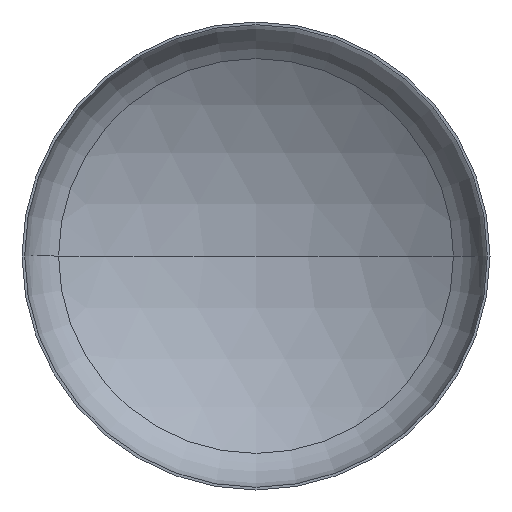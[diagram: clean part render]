
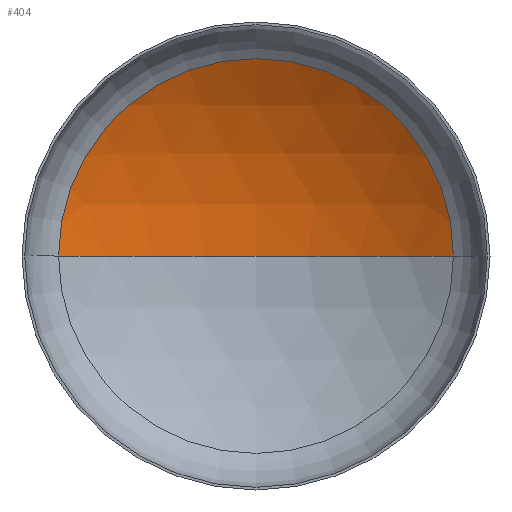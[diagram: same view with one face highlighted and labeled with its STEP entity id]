
A CAD part, front view. The second image highlights one B-rep face of the part: STEP entity #404.
In plain terms, the highlighted spherical face has radius 2400 mm.
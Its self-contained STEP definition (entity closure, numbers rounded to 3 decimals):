
#8 = EDGE_LOOP ( 'NONE', ( #33, #66, #26 ) ) ;
#26 = ORIENTED_EDGE ( 'NONE', *, *, #184, .T. ) ;
#33 = ORIENTED_EDGE ( 'NONE', *, *, #189, .F. ) ;
#42 = VERTEX_POINT ( 'NONE', #350 ) ;
#66 = ORIENTED_EDGE ( 'NONE', *, *, #187, .T. ) ;
#76 = VERTEX_POINT ( 'NONE', #233 ) ;
#106 = VERTEX_POINT ( 'NONE', #288 ) ;
#111 = DIRECTION ( 'NONE',  ( -1., 0., 0. ) ) ;
#112 = AXIS2_PLACEMENT_3D ( 'NONE', #209, #210, #247 ) ;
#115 = AXIS2_PLACEMENT_3D ( 'NONE', #382, #166, #186 ) ;
#117 = AXIS2_PLACEMENT_3D ( 'NONE', #250, #401, #355 ) ;
#156 = CIRCLE ( 'NONE', #115, 2400. ) ;
#166 = DIRECTION ( 'NONE',  ( 0., 0., -1. ) ) ;
#167 = CARTESIAN_POINT ( 'NONE',  ( 0., -1593.354, 0. ) ) ;
#184 = EDGE_CURVE ( 'NONE', #42, #76, #236, .T. ) ;
#185 = FACE_OUTER_BOUND ( 'NONE', #8, .T. ) ;
#186 = DIRECTION ( 'NONE',  ( -1., 0., 0. ) ) ;
#187 = EDGE_CURVE ( 'NONE', #106, #42, #156, .T. ) ;
#189 = EDGE_CURVE ( 'NONE', #106, #76, #349, .T. ) ;
#209 = CARTESIAN_POINT ( 'NONE',  ( 0., -1593.354, 0. ) ) ;
#210 = DIRECTION ( 'NONE',  ( 0., 0., 1. ) ) ;
#233 = CARTESIAN_POINT ( 'NONE',  ( -1265.567, 445.847, 0. ) ) ;
#236 = CIRCLE ( 'NONE', #117, 1265.567 ) ;
#242 = AXIS2_PLACEMENT_3D ( 'NONE', #167, #365, #111 ) ;
#247 = DIRECTION ( 'NONE',  ( 1., 0., 0. ) ) ;
#250 = CARTESIAN_POINT ( 'NONE',  ( 0., 445.847, 0. ) ) ;
#288 = CARTESIAN_POINT ( 'NONE',  ( 0., 806.646, 0. ) ) ;
#308 = SPHERICAL_SURFACE ( 'NONE', #242, 2400. ) ;
#349 = CIRCLE ( 'NONE', #112, 2400. ) ;
#350 = CARTESIAN_POINT ( 'NONE',  ( 1265.567, 445.847, 0. ) ) ;
#355 = DIRECTION ( 'NONE',  ( 1., 0., 0. ) ) ;
#365 = DIRECTION ( 'NONE',  ( 0., 0., -1. ) ) ;
#382 = CARTESIAN_POINT ( 'NONE',  ( 0., -1593.354, 0. ) ) ;
#401 = DIRECTION ( 'NONE',  ( 0., -1., 0. ) ) ;
#404 = ADVANCED_FACE ( 'NONE', ( #185 ), #308, .F. ) ;
